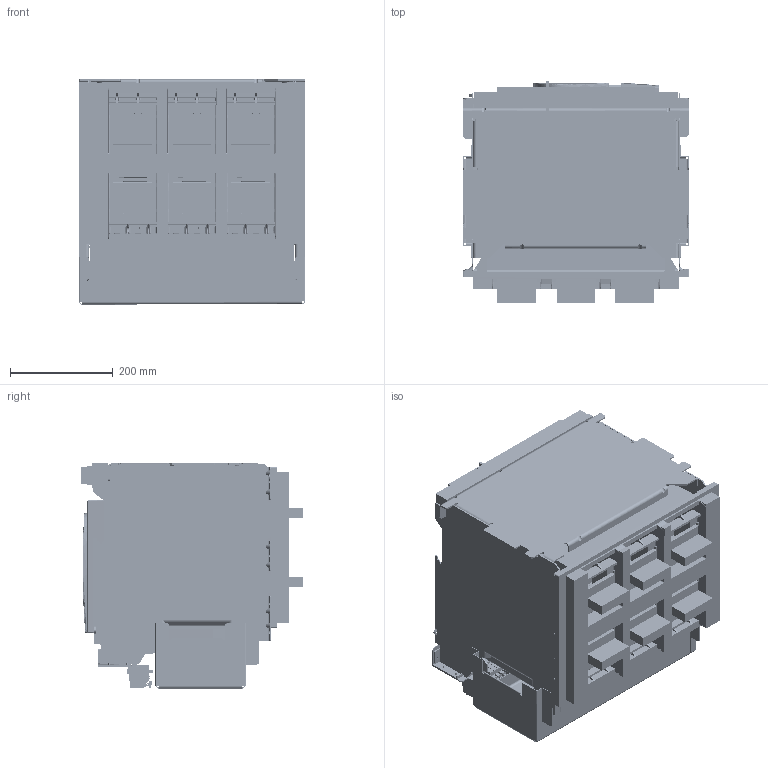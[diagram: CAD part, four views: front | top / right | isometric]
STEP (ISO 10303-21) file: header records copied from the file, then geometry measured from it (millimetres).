
FILE_DESCRIPTION((''),'2;1');
FILE_NAME('ZHAUNGPEI_ASM','2017-08-28T',('SESA401276'),('Schneider-Electric'),'PRO/ENGINEER BY PARAMETRIC TECHNOLOGY CORPORATION, 2015440','PRO/ENGINEER BY PARAMETRIC TECHNOLOGY CORPORATION, 2015440','');
FILE_SCHEMA(('CONFIG_CONTROL_DESIGN'));
Products named in the file (29): S1A8100201_2_2; 0444211400_2_2; AAV3708001_2_2; AAV3707601_2_2; 0444206700_1_2; 0444213600_1_2; 0444236800_2_2; 0444236900_1_2; 0444290400_ASM_1_ASM_3_ASM; 0444212100_1_2; K2-ASSEMBLY-APR429_ASM_84_ASM_2_ASM; KETI_ASM_2_ASM; MUXIANBAN20_1; CEBAN1_3; CEBAN2ZUO_2; BREP_WITH_VOIDS_131171; MANIFOLD_SOLID_BREP_131227; 04442709AA_1_2_ASM; 04442705AA_1_2; S1A808460601_5_2; S1A8539301_2_2; S1A8539401_2_2; S1A8539201_2_2; S1A96524_ASM_2_ASM_2_ASM; ZHUTI_ASM_2_ASM; DIBAN_2; MUXIAN_2; ASM0001_ASM_1_ASM; ZHAUNGPEI_ASM
Assembly tree (67 placements, depth 6):
  ZHAUNGPEI_ASM
    ASM0001_ASM_1_ASM
      KETI_ASM_2_ASM
        K2-ASSEMBLY-APR429_ASM_84_ASM_2_ASM
          S1A8100201_2_2
          0444211400_2_2
          AAV3708001_2_2
          AAV3707601_2_2
          0444206700_1_2
          0444213600_1_2
          0444290400_ASM_1_ASM_3_ASM  x32
            0444236800_2_2
            0444236900_1_2
          0444212100_1_2
      MUXIANBAN20_1
      CEBAN1_3
      CEBAN2ZUO_2
      ZHUTI_ASM_2_ASM
        04442709AA_1_2_ASM
          BREP_WITH_VOIDS_131171
          MANIFOLD_SOLID_BREP_131227
        04442705AA_1_2
        S1A808460601_5_2
        S1A96524_ASM_2_ASM_2_ASM  x3
          S1A8539301_2_2
          S1A8539401_2_2
          S1A8539201_2_2
      DIBAN_2
      MUXIAN_2  x6
Bounding box: 441.6 x 433.15 x 439.14 mm (x, y, z)
Volume: 22499244.1 mm3; surface area: 4249524.8 mm2
Topology: 97 solids, 373 shells, 32997 faces, 90562 edges, 59765 vertices
Faces by surface type: plane 29447, cylinder 2518, cone 792, bspline 117, torus 77, sphere 24, extrusion 22
Entity records: 199736 total; most frequent: CARTESIAN_POINT 50020, ORIENTED_EDGE 32686, DIRECTION 28238, EDGE_CURVE 16343, VECTOR 12096, LINE 12074, VERTEX_POINT 10654, AXIS2_PLACEMENT_3D 8071
